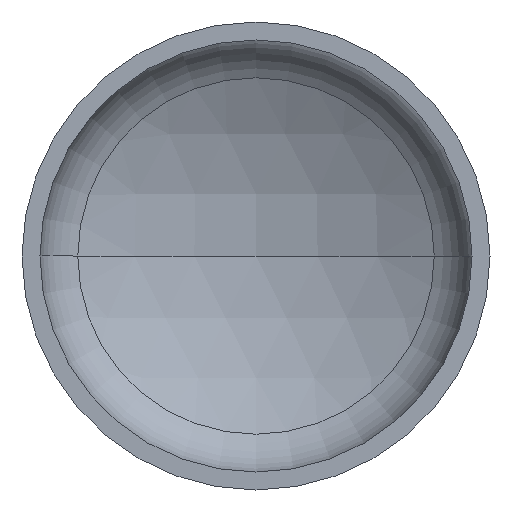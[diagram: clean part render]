
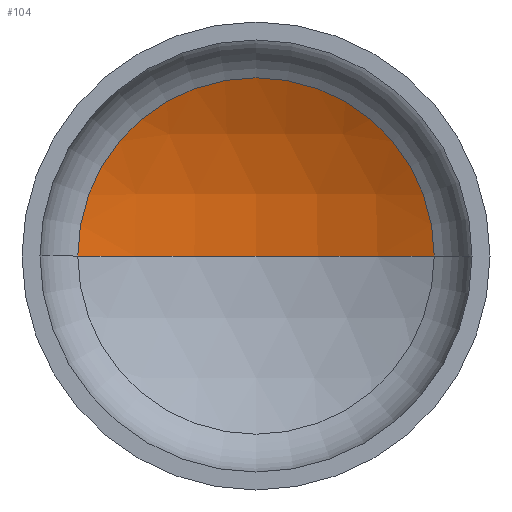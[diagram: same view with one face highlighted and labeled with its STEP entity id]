
A CAD part, front view. The second image highlights one B-rep face of the part: STEP entity #104.
In plain terms, the highlighted spherical face has radius 1920 mm.
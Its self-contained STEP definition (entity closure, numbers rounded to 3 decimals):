
#6 = DIRECTION ( 'NONE',  ( 1., 0., 0. ) ) ;
#11 = DIRECTION ( 'NONE',  ( 0., -1., 0. ) ) ;
#14 = VERTEX_POINT ( 'NONE', #342 ) ;
#17 = CARTESIAN_POINT ( 'NONE',  ( 0., 425.369, 0. ) ) ;
#24 = AXIS2_PLACEMENT_3D ( 'NONE', #383, #206, #156 ) ;
#25 = AXIS2_PLACEMENT_3D ( 'NONE', #131, #146, #147 ) ;
#27 = AXIS2_PLACEMENT_3D ( 'NONE', #17, #11, #6 ) ;
#72 = SPHERICAL_SURFACE ( 'NONE', #24, 1920. ) ;
#86 = EDGE_CURVE ( 'NONE', #14, #387, #292, .T. ) ;
#104 = ADVANCED_FACE ( 'NONE', ( #370 ), #72, .F. ) ;
#109 = EDGE_CURVE ( 'NONE', #141, #14, #226, .T. ) ;
#131 = CARTESIAN_POINT ( 'NONE',  ( 0., -1263.032, 0. ) ) ;
#141 = VERTEX_POINT ( 'NONE', #171 ) ;
#146 = DIRECTION ( 'NONE',  ( 0., 0., -1. ) ) ;
#147 = DIRECTION ( 'NONE',  ( -1., 0., 0. ) ) ;
#151 = CARTESIAN_POINT ( 'NONE',  ( 0., -1263.032, 0. ) ) ;
#156 = DIRECTION ( 'NONE',  ( -1., 0., 0. ) ) ;
#171 = CARTESIAN_POINT ( 'NONE',  ( 0., 656.968, 0. ) ) ;
#197 = ORIENTED_EDGE ( 'NONE', *, *, #329, .F. ) ;
#199 = EDGE_LOOP ( 'NONE', ( #197, #218, #281 ) ) ;
#206 = DIRECTION ( 'NONE',  ( 0., 0., -1. ) ) ;
#210 = DIRECTION ( 'NONE',  ( 0., 0., 1. ) ) ;
#218 = ORIENTED_EDGE ( 'NONE', *, *, #109, .T. ) ;
#226 = CIRCLE ( 'NONE', #25, 1920. ) ;
#263 = CIRCLE ( 'NONE', #366, 1920. ) ;
#266 = CARTESIAN_POINT ( 'NONE',  ( -914.168, 425.369, 0. ) ) ;
#281 = ORIENTED_EDGE ( 'NONE', *, *, #86, .T. ) ;
#292 = CIRCLE ( 'NONE', #27, 914.168 ) ;
#329 = EDGE_CURVE ( 'NONE', #141, #387, #263, .T. ) ;
#342 = CARTESIAN_POINT ( 'NONE',  ( 914.168, 425.369, 0. ) ) ;
#351 = DIRECTION ( 'NONE',  ( 1., 0., 0. ) ) ;
#366 = AXIS2_PLACEMENT_3D ( 'NONE', #151, #210, #351 ) ;
#370 = FACE_OUTER_BOUND ( 'NONE', #199, .T. ) ;
#383 = CARTESIAN_POINT ( 'NONE',  ( 0., -1263.032, 0. ) ) ;
#387 = VERTEX_POINT ( 'NONE', #266 ) ;
